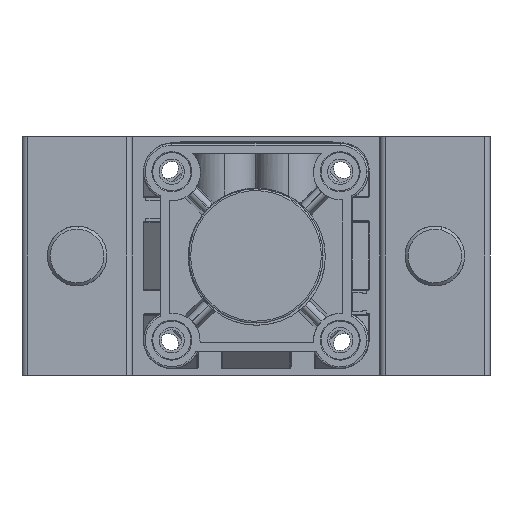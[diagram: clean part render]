
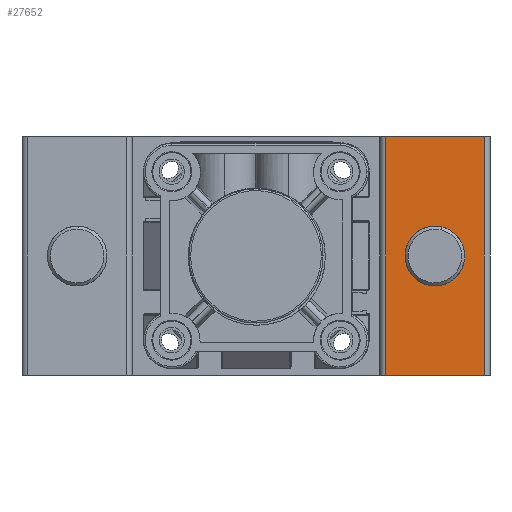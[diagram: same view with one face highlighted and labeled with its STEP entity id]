
A CAD part, front view. The second image highlights one B-rep face of the part: STEP entity #27652.
In plain terms, the highlighted planar face has unit normal (0, -1, 0).
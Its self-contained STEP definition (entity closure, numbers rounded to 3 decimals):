
#1202 = EDGE_CURVE ( 'NONE', #12290, #33670, #19856, .T. ) ;
#2745 = PLANE ( 'NONE',  #30910 ) ;
#2933 = VERTEX_POINT ( 'NONE', #26503 ) ;
#4285 = EDGE_LOOP ( 'NONE', ( #14351, #12074 ) ) ;
#5705 = DIRECTION ( 'NONE',  ( 0., 0., -1. ) ) ;
#5763 = CARTESIAN_POINT ( 'NONE',  ( 155., -167., 0. ) ) ;
#5824 = CARTESIAN_POINT ( 'NONE',  ( 122., -167., 80. ) ) ;
#6092 = ORIENTED_EDGE ( 'NONE', *, *, #15101, .F. ) ;
#6340 = ORIENTED_EDGE ( 'NONE', *, *, #14086, .T. ) ;
#7221 = VERTEX_POINT ( 'NONE', #5824 ) ;
#8874 = ORIENTED_EDGE ( 'NONE', *, *, #16382, .F. ) ;
#9073 = CARTESIAN_POINT ( 'NONE',  ( 155., -167., 80. ) ) ;
#10064 = ORIENTED_EDGE ( 'NONE', *, *, #1202, .T. ) ;
#10671 = FACE_BOUND ( 'NONE', #4285, .T. ) ;
#10923 = CARTESIAN_POINT ( 'NONE',  ( 155., -167., 80. ) ) ;
#10979 = CARTESIAN_POINT ( 'NONE',  ( 138.5, -167., 30. ) ) ;
#12074 = ORIENTED_EDGE ( 'NONE', *, *, #18296, .F. ) ;
#12290 = VERTEX_POINT ( 'NONE', #17912 ) ;
#13364 = CARTESIAN_POINT ( 'NONE',  ( 138.5, -167., 50. ) ) ;
#14086 = EDGE_CURVE ( 'NONE', #7221, #12290, #36503, .T. ) ;
#14351 = ORIENTED_EDGE ( 'NONE', *, *, #28147, .F. ) ;
#15101 = EDGE_CURVE ( 'NONE', #7221, #2933, #40726, .T. ) ;
#15163 = CARTESIAN_POINT ( 'NONE',  ( 138.5, -167., 40. ) ) ;
#15355 = DIRECTION ( 'NONE',  ( 0., 0., 1. ) ) ;
#16085 = CARTESIAN_POINT ( 'NONE',  ( 138.5, -167., 40. ) ) ;
#16382 = EDGE_CURVE ( 'NONE', #2933, #33670, #25860, .T. ) ;
#17912 = CARTESIAN_POINT ( 'NONE',  ( 122., -167., 0. ) ) ;
#18296 = EDGE_CURVE ( 'NONE', #38487, #29826, #19387, .T. ) ;
#18330 = DIRECTION ( 'NONE',  ( 0., 0., -1. ) ) ;
#18880 = AXIS2_PLACEMENT_3D ( 'NONE', #15163, #37151, #18330 ) ;
#19264 = DIRECTION ( 'NONE',  ( 0., 0., -1. ) ) ;
#19387 = CIRCLE ( 'NONE', #32960, 10. ) ;
#19856 = LINE ( 'NONE', #23330, #28174 ) ;
#20396 = DIRECTION ( 'NONE',  ( 1., 0., 0. ) ) ;
#20753 = VECTOR ( 'NONE', #5705, 1000. ) ;
#21516 = CARTESIAN_POINT ( 'NONE',  ( 155., -167., 80. ) ) ;
#23330 = CARTESIAN_POINT ( 'NONE',  ( 155., -167., 0. ) ) ;
#23852 = VECTOR ( 'NONE', #24649, 1000. ) ;
#24649 = DIRECTION ( 'NONE',  ( 0., 0., -1. ) ) ;
#25860 = LINE ( 'NONE', #21516, #23852 ) ;
#26503 = CARTESIAN_POINT ( 'NONE',  ( 155., -167., 80. ) ) ;
#27363 = CARTESIAN_POINT ( 'NONE',  ( 122., -167., 80. ) ) ;
#27652 = ADVANCED_FACE ( 'NONE', ( #10671, #28332 ), #2745, .F. ) ;
#28147 = EDGE_CURVE ( 'NONE', #29826, #38487, #33225, .T. ) ;
#28174 = VECTOR ( 'NONE', #32805, 1000. ) ;
#28332 = FACE_OUTER_BOUND ( 'NONE', #35550, .T. ) ;
#29826 = VERTEX_POINT ( 'NONE', #10979 ) ;
#30910 = AXIS2_PLACEMENT_3D ( 'NONE', #9073, #34195, #15355 ) ;
#32319 = VECTOR ( 'NONE', #20396, 1000. ) ;
#32805 = DIRECTION ( 'NONE',  ( 1., 0., 0. ) ) ;
#32960 = AXIS2_PLACEMENT_3D ( 'NONE', #16085, #38074, #19264 ) ;
#33225 = CIRCLE ( 'NONE', #18880, 10. ) ;
#33670 = VERTEX_POINT ( 'NONE', #5763 ) ;
#34195 = DIRECTION ( 'NONE',  ( 0., 1., 0. ) ) ;
#35550 = EDGE_LOOP ( 'NONE', ( #10064, #8874, #6092, #6340 ) ) ;
#36503 = LINE ( 'NONE', #27363, #20753 ) ;
#37151 = DIRECTION ( 'NONE',  ( 0., -1., 0. ) ) ;
#38074 = DIRECTION ( 'NONE',  ( 0., -1., 0. ) ) ;
#38487 = VERTEX_POINT ( 'NONE', #13364 ) ;
#40726 = LINE ( 'NONE', #10923, #32319 ) ;
